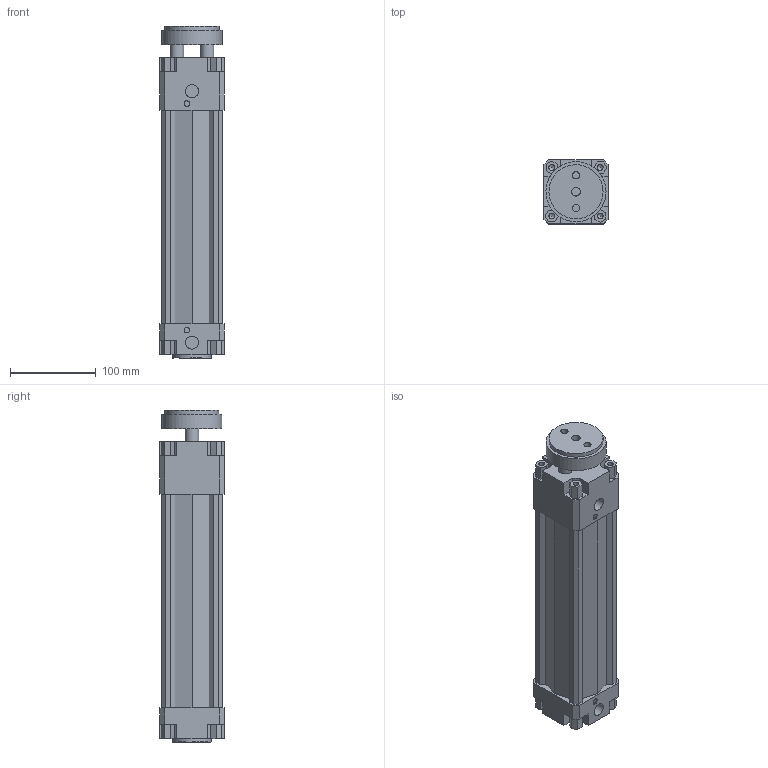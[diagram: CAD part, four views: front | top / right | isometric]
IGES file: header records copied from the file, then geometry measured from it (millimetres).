
Global section: file name: 134#_063_0200_01; native system: Autodesk Inventor 2014; preprocessor: unknown; author: A. Manieri; date: 20161006.165122; units: millimetre
Bounding box: 75 x 75 x 387 mm (x, y, z)
Volume: 1137769.3 mm3; surface area: 244061.6 mm2
Topology: 2 solids, 2 shells, 180 faces, 491 edges, 335 vertices
Faces by surface type: bspline 180
